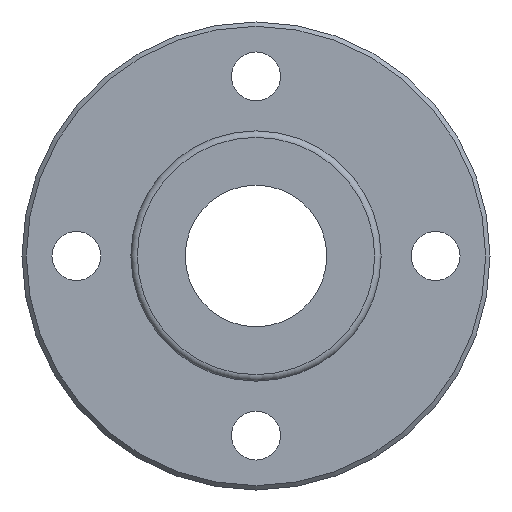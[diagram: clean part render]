
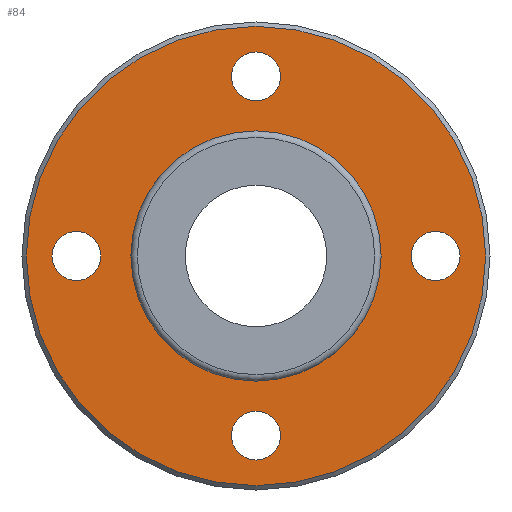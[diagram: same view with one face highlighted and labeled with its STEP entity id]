
A CAD part, left-side view. The second image highlights one B-rep face of the part: STEP entity #84.
In plain terms, the highlighted planar face has unit normal (-1, 0, 0).
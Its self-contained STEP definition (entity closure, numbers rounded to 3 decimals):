
#84=ADVANCED_FACE('',(#131,#132,#133,#134,#135,#136),#137,.T.);
#131=FACE_OUTER_BOUND('',#223,.T.);
#132=FACE_BOUND('',#224,.T.);
#133=FACE_BOUND('',#225,.T.);
#134=FACE_BOUND('',#226,.T.);
#135=FACE_BOUND('',#227,.T.);
#136=FACE_BOUND('',#228,.T.);
#137=PLANE('',#229);
#223=EDGE_LOOP('',(#333));
#224=EDGE_LOOP('',(#334));
#225=EDGE_LOOP('',(#335));
#226=EDGE_LOOP('',(#336));
#227=EDGE_LOOP('',(#337));
#228=EDGE_LOOP('',(#338));
#229=AXIS2_PLACEMENT_3D('',#339,#340,#341);
#333=ORIENTED_EDGE('',*,*,#451,.T.);
#334=ORIENTED_EDGE('',*,*,#452,.F.);
#335=ORIENTED_EDGE('',*,*,#453,.T.);
#336=ORIENTED_EDGE('',*,*,#454,.T.);
#337=ORIENTED_EDGE('',*,*,#449,.T.);
#338=ORIENTED_EDGE('',*,*,#455,.T.);
#339=CARTESIAN_POINT('',(-6.0,16.125,0.0));
#340=DIRECTION('',(-1.0,0.0,0.));
#341=DIRECTION('',(0.,0.0,1.0));
#449=EDGE_CURVE('',#494,#494,#495,.T.);
#451=EDGE_CURVE('',#498,#498,#499,.T.);
#452=EDGE_CURVE('',#500,#500,#501,.T.);
#453=EDGE_CURVE('',#502,#502,#503,.T.);
#454=EDGE_CURVE('',#504,#504,#505,.T.);
#455=EDGE_CURVE('',#506,#506,#507,.T.);
#494=VERTEX_POINT('',#558);
#495=CIRCLE('',#559,2.25);
#498=VERTEX_POINT('',#562);
#499=CIRCLE('',#563,21.1);
#500=VERTEX_POINT('',#564);
#501=CIRCLE('',#565,11.15);
#502=VERTEX_POINT('',#566);
#503=CIRCLE('',#567,2.25);
#504=VERTEX_POINT('',#568);
#505=CIRCLE('',#569,2.25);
#506=VERTEX_POINT('',#570);
#507=CIRCLE('',#571,2.25);
#558=CARTESIAN_POINT('',(-6.0,-16.5,2.25));
#559=AXIS2_PLACEMENT_3D('',#635,#636,#637);
#562=CARTESIAN_POINT('',(-6.0,21.1,0.0));
#563=AXIS2_PLACEMENT_3D('',#641,#642,#643);
#564=CARTESIAN_POINT('',(-6.0,11.15,0.0));
#565=AXIS2_PLACEMENT_3D('',#644,#645,#646);
#566=CARTESIAN_POINT('',(-6.0,16.5,2.25));
#567=AXIS2_PLACEMENT_3D('',#647,#648,#649);
#568=CARTESIAN_POINT('',(-6.0,0.0,18.75));
#569=AXIS2_PLACEMENT_3D('',#650,#651,#652);
#570=CARTESIAN_POINT('',(-6.0,0.0,-14.25));
#571=AXIS2_PLACEMENT_3D('',#653,#654,#655);
#635=CARTESIAN_POINT('',(-6.0,-16.5,0.));
#636=DIRECTION('',(1.0,0.0,0.));
#637=DIRECTION('',(0.,0.0,-1.0));
#641=CARTESIAN_POINT('',(-6.0,0.0,0.0));
#642=DIRECTION('',(-1.0,0.0,0.));
#643=DIRECTION('',(0.0,1.0,0.0));
#644=CARTESIAN_POINT('',(-6.0,0.0,0.0));
#645=DIRECTION('',(-1.0,0.0,0.));
#646=DIRECTION('',(0.0,1.0,0.0));
#647=CARTESIAN_POINT('',(-6.0,16.5,0.));
#648=DIRECTION('',(1.0,0.0,0.));
#649=DIRECTION('',(0.,0.0,-1.0));
#650=CARTESIAN_POINT('',(-6.0,0.0,16.5));
#651=DIRECTION('',(1.0,0.0,0.));
#652=DIRECTION('',(0.,0.0,-1.0));
#653=CARTESIAN_POINT('',(-6.0,0.0,-16.5));
#654=DIRECTION('',(1.0,0.0,0.));
#655=DIRECTION('',(0.,0.0,-1.0));
